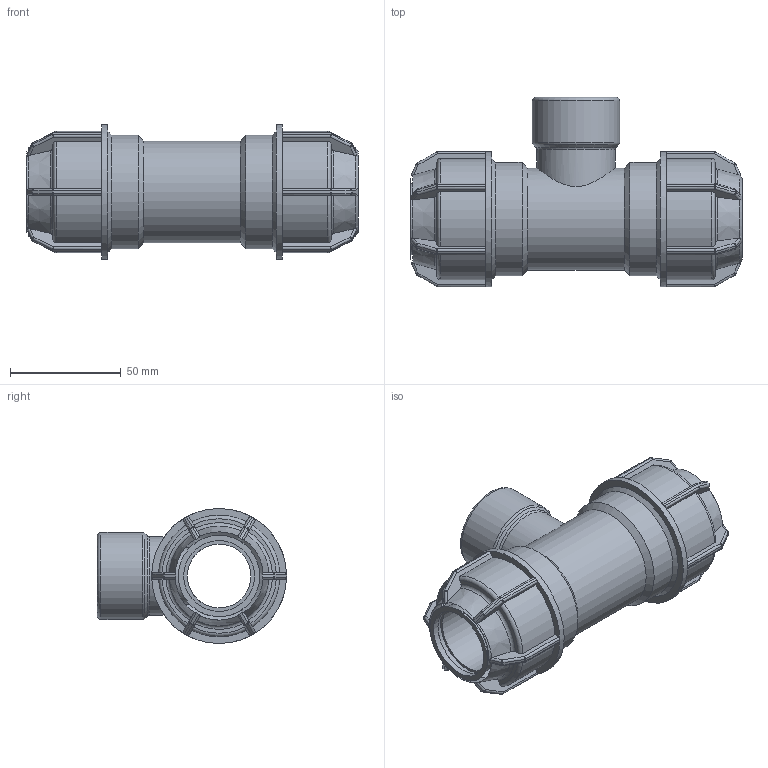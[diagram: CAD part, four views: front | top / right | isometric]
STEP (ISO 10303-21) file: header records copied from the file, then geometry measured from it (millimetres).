
FILE_DESCRIPTION(/* description */ ('PLASSON L.14 TEE FEMALE ADAPTOR (SILVER) 32 x 1" x 32'),/* implementation_level */ '2;1');
FILE_NAME(/* name */ 'C:\Dropbox\KIMPROJECTS-Inventor\99-16-3568-Processing\Silver Fittings\141400\141400032010.ipt.stp',/* time_stamp */ '2018-04-16T11:15:52+03:00',/* author */ ('KIM'),/* organization */ (''),/* preprocessor_version */ 'ST-DEVELOPER v15.6',/* originating_system */ 'Autodesk Inventor 2015',/* authorisation */ '');
FILE_SCHEMA (('AUTOMOTIVE_DESIGN { 1 0 10303 214 3 1 1 }'));
Length unit declared in the file: millimetre
Products named in the file (1): 141400032010
Bounding box: 150 x 85.5 x 61 mm (x, y, z)
Volume: 195553.1 mm3; surface area: 53392 mm2
Topology: 1 solids, 1 shells, 413 faces, 992 edges, 568 vertices
Faces by surface type: plane 193, cylinder 122, sphere 48, torus 31, cone 19
Full cylindrical faces by diameter (mm): 25.6 x1, 28.8 x1, 30.291 x1, 32 x4, 35.44 x1, 39.378 x1, 46.08 x1, 51.2 x2, 61 x2
Entity records: 12048 total; most frequent: CARTESIAN_POINT 3153, DIRECTION 1872, ORIENTED_EDGE 1822, EDGE_CURVE 911, AXIS2_PLACEMENT_3D 756, VERTEX_POINT 539, EDGE_LOOP 450, FACE_OUTER_BOUND 410
